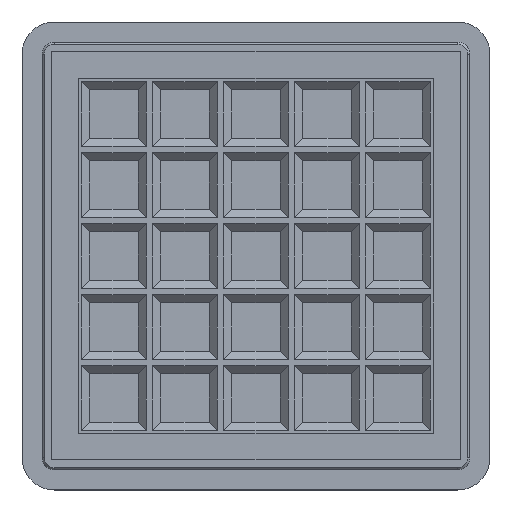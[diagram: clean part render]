
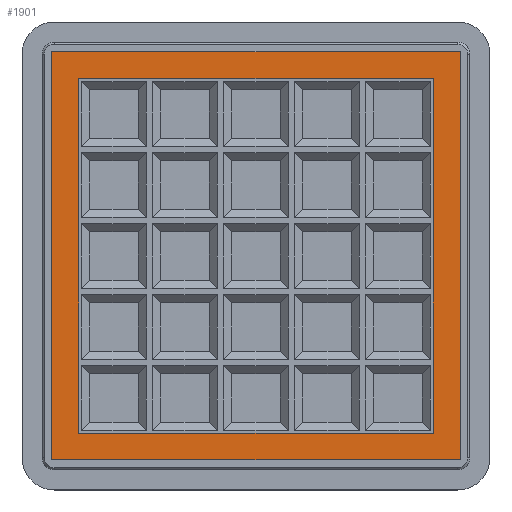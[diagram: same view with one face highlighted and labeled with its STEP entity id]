
A CAD part, top view. The second image highlights one B-rep face of the part: STEP entity #1901.
In plain terms, the highlighted free-form (B-spline) face has degree [1, 1] with [2, 2] control points.
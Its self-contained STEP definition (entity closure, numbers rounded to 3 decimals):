
#1818 = VERTEX_POINT('',#1819);
#1819 = CARTESIAN_POINT('',(25.3,-25.3,12.));
#1824 = EDGE_CURVE('',#1825,#1818,#1827,.T.);
#1825 = VERTEX_POINT('',#1826);
#1826 = CARTESIAN_POINT('',(-25.3,-25.3,12.));
#1827 = B_SPLINE_CURVE_WITH_KNOTS('',1,(#1828,#1829),.UNSPECIFIED.,.F.,
  .F.,(2,2),(0.,50.6),.PIECEWISE_BEZIER_KNOTS.);
#1828 = CARTESIAN_POINT('',(-25.3,-25.3,12.));
#1829 = CARTESIAN_POINT('',(25.3,-25.3,12.));
#1846 = EDGE_CURVE('',#1818,#1847,#1849,.T.);
#1847 = VERTEX_POINT('',#1848);
#1848 = CARTESIAN_POINT('',(25.3,25.3,12.));
#1849 = B_SPLINE_CURVE_WITH_KNOTS('',1,(#1850,#1851),.UNSPECIFIED.,.F.,
  .F.,(2,2),(0.,50.6),.PIECEWISE_BEZIER_KNOTS.);
#1850 = CARTESIAN_POINT('',(25.3,-25.3,12.));
#1851 = CARTESIAN_POINT('',(25.3,25.3,12.));
#1868 = EDGE_CURVE('',#1869,#1847,#1871,.T.);
#1869 = VERTEX_POINT('',#1870);
#1870 = CARTESIAN_POINT('',(-25.3,25.3,12.));
#1871 = B_SPLINE_CURVE_WITH_KNOTS('',1,(#1872,#1873),.UNSPECIFIED.,.F.,
  .F.,(2,2),(0.,50.6),.PIECEWISE_BEZIER_KNOTS.);
#1872 = CARTESIAN_POINT('',(-25.3,25.3,12.));
#1873 = CARTESIAN_POINT('',(25.3,25.3,12.));
#1890 = EDGE_CURVE('',#1825,#1869,#1891,.T.);
#1891 = B_SPLINE_CURVE_WITH_KNOTS('',1,(#1892,#1893),.UNSPECIFIED.,.F.,
  .F.,(2,2),(0.,50.6),.PIECEWISE_BEZIER_KNOTS.);
#1892 = CARTESIAN_POINT('',(-25.3,-25.3,12.));
#1893 = CARTESIAN_POINT('',(-25.3,25.3,12.));
#1901 = ADVANCED_FACE('',(#1902,#1908),#1938,.T.);
#1902 = FACE_BOUND('',#1903,.T.);
#1903 = EDGE_LOOP('',(#1904,#1905,#1906,#1907));
#1904 = ORIENTED_EDGE('',*,*,#1890,.F.);
#1905 = ORIENTED_EDGE('',*,*,#1824,.T.);
#1906 = ORIENTED_EDGE('',*,*,#1846,.T.);
#1907 = ORIENTED_EDGE('',*,*,#1868,.F.);
#1908 = FACE_BOUND('',#1909,.T.);
#1909 = EDGE_LOOP('',(#1910,#1919,#1926,#1933));
#1910 = ORIENTED_EDGE('',*,*,#1911,.F.);
#1911 = EDGE_CURVE('',#1912,#1914,#1916,.T.);
#1912 = VERTEX_POINT('',#1913);
#1913 = CARTESIAN_POINT('',(-22.,-22.,12.));
#1914 = VERTEX_POINT('',#1915);
#1915 = CARTESIAN_POINT('',(22.,-22.,12.));
#1916 = B_SPLINE_CURVE_WITH_KNOTS('',1,(#1917,#1918),.UNSPECIFIED.,.F.,
  .F.,(2,2),(1.65,45.65),.PIECEWISE_BEZIER_KNOTS.);
#1917 = CARTESIAN_POINT('',(-22.,-22.,12.));
#1918 = CARTESIAN_POINT('',(22.,-22.,12.));
#1919 = ORIENTED_EDGE('',*,*,#1920,.F.);
#1920 = EDGE_CURVE('',#1921,#1912,#1923,.T.);
#1921 = VERTEX_POINT('',#1922);
#1922 = CARTESIAN_POINT('',(-22.,22.,12.));
#1923 = B_SPLINE_CURVE_WITH_KNOTS('',1,(#1924,#1925),.UNSPECIFIED.,.F.,
  .F.,(2,2),(-45.65,-1.65),.PIECEWISE_BEZIER_KNOTS.);
#1924 = CARTESIAN_POINT('',(-22.,22.,12.));
#1925 = CARTESIAN_POINT('',(-22.,-22.,12.));
#1926 = ORIENTED_EDGE('',*,*,#1927,.T.);
#1927 = EDGE_CURVE('',#1921,#1928,#1930,.T.);
#1928 = VERTEX_POINT('',#1929);
#1929 = CARTESIAN_POINT('',(22.,22.,12.));
#1930 = B_SPLINE_CURVE_WITH_KNOTS('',1,(#1931,#1932),.UNSPECIFIED.,.F.,
  .F.,(2,2),(1.65,45.65),.PIECEWISE_BEZIER_KNOTS.);
#1931 = CARTESIAN_POINT('',(-22.,22.,12.));
#1932 = CARTESIAN_POINT('',(22.,22.,12.));
#1933 = ORIENTED_EDGE('',*,*,#1934,.T.);
#1934 = EDGE_CURVE('',#1928,#1914,#1935,.T.);
#1935 = B_SPLINE_CURVE_WITH_KNOTS('',1,(#1936,#1937),.UNSPECIFIED.,.F.,
  .F.,(2,2),(-45.65,-1.65),.PIECEWISE_BEZIER_KNOTS.);
#1936 = CARTESIAN_POINT('',(22.,22.,12.));
#1937 = CARTESIAN_POINT('',(22.,-22.,12.));
#1938 = B_SPLINE_SURFACE_WITH_KNOTS('',1,1,(
    (#1939,#1940)
    ,(#1941,#1942
    )),.UNSPECIFIED.,.F.,.F.,.F.,(2,2),(2,2),(0.,50.6),(0.,50.6),
  .PIECEWISE_BEZIER_KNOTS.);
#1939 = CARTESIAN_POINT('',(-25.3,-25.3,12.));
#1940 = CARTESIAN_POINT('',(-25.3,25.3,12.));
#1941 = CARTESIAN_POINT('',(25.3,-25.3,12.));
#1942 = CARTESIAN_POINT('',(25.3,25.3,12.));
